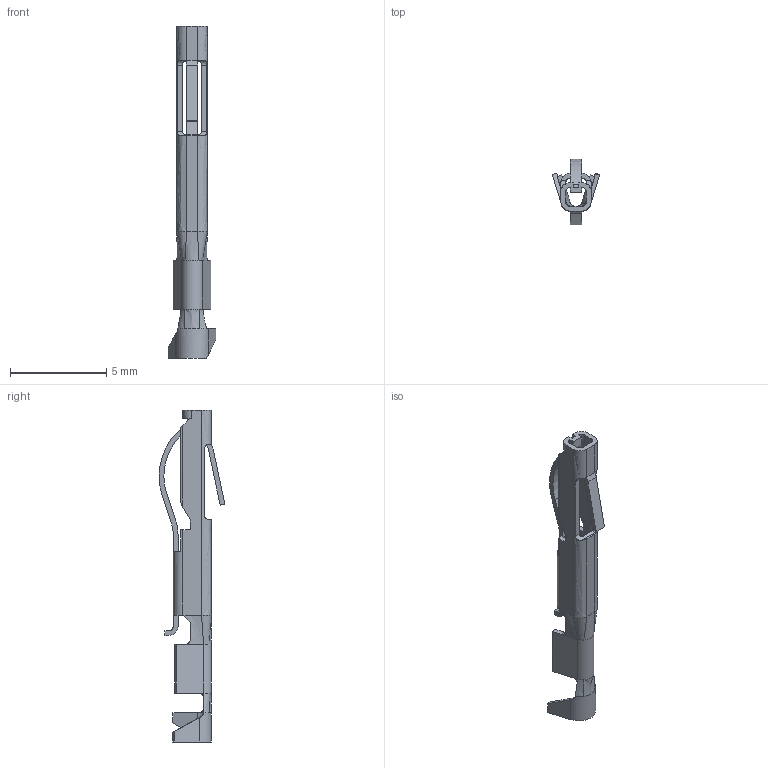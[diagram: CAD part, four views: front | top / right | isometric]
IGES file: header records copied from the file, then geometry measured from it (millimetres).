
Start section:  PTC IGES file: c-1-583853-0-v1-3d.igs
Global section: file name: c-1-583853-0-v1-3d.igs; native system: Pro/ENGINEER by Parametric Technology Corporation; preprocessor: 2005450; author: workeradm; organization: Unknown; date: 080506.061946; units: millimetre
Bounding box: 2.48 x 3.43 x 17.27 mm (x, y, z)
Surface area: 160.3 mm2 (no closed solid volume)
Topology: 0 solids, 0 shells, 144 faces, 823 edges, 823 vertices
Faces by surface type: bspline 106, revolution 36, extrusion 2
